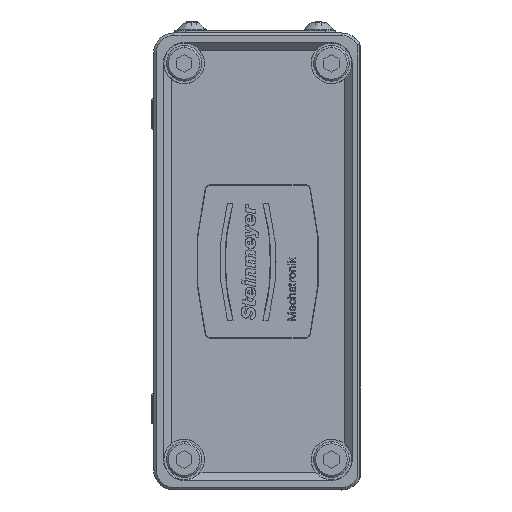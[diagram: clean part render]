
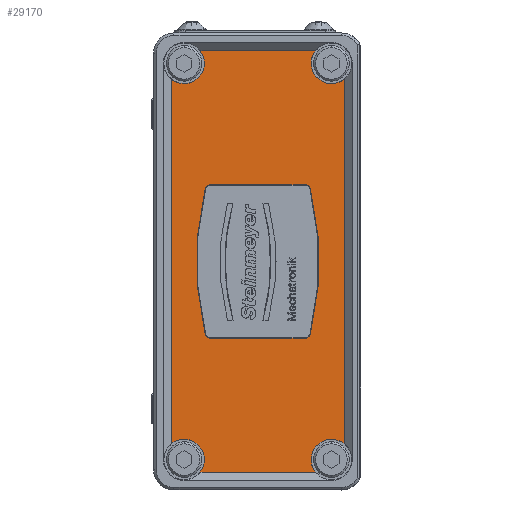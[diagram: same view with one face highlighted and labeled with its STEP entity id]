
A CAD part, left-side view. The second image highlights one B-rep face of the part: STEP entity #29170.
In plain terms, the highlighted planar face has unit normal (-1, 0, 0) as drawn and (0, 0, 1) by its records, which use the part's own axes.
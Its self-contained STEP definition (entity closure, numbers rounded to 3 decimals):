
#4797=CARTESIAN_POINT('',(-39.,6.,82.));
#4798=DIRECTION('',(0.,0.,1.));
#4799=DIRECTION('',(0.781,-0.625,0.));
#4800=AXIS2_PLACEMENT_3D('',#4797,#4798,#4799);
#4805=CARTESIAN_POINT('',(-39.,6.,82.));
#4806=DIRECTION('',(0.,0.,1.));
#4807=DIRECTION('',(0.,1.,0.));
#4808=AXIS2_PLACEMENT_3D('',#4805,#4806,#4807);
#4813=DIRECTION('',(0.,1.,0.));
#4814=VECTOR('',#4813,22.755);
#4815=CARTESIAN_POINT('',(-41.5,9.122,82.));
#4816=LINE('1429',#4815,#4814);
#4820=CARTESIAN_POINT('',(-39.,35.,82.));
#4821=DIRECTION('',(0.,0.,1.));
#4822=DIRECTION('',(-0.625,-0.781,0.));
#4823=AXIS2_PLACEMENT_3D('',#4820,#4821,#4822);
#4828=CARTESIAN_POINT('',(-39.,35.,82.));
#4829=DIRECTION('',(0.,0.,1.));
#4830=DIRECTION('',(0.,-1.,0.));
#4831=AXIS2_PLACEMENT_3D('',#4828,#4829,#4830);
#4836=DIRECTION('',(1.,0.,0.));
#4837=VECTOR('',#4836,71.755);
#4838=CARTESIAN_POINT('',(-35.878,37.5,82.));
#4839=LINE('1432',#4838,#4837);
#4843=CARTESIAN_POINT('',(39.,35.,82.));
#4844=DIRECTION('',(0.,0.,1.));
#4845=DIRECTION('',(-0.781,0.625,0.));
#4846=AXIS2_PLACEMENT_3D('',#4843,#4844,#4845);
#4851=CARTESIAN_POINT('',(39.,35.,82.));
#4852=DIRECTION('',(0.,0.,1.));
#4853=DIRECTION('',(0.,-1.,0.));
#4854=AXIS2_PLACEMENT_3D('',#4851,#4852,#4853);
#4859=DIRECTION('',(0.,-1.,0.));
#4860=VECTOR('',#4859,22.755);
#4861=CARTESIAN_POINT('',(41.5,31.878,82.));
#4862=LINE('1434',#4861,#4860);
#4866=CARTESIAN_POINT('',(39.,6.,82.));
#4867=DIRECTION('',(0.,0.,1.));
#4868=DIRECTION('',(0.625,0.781,0.));
#4869=AXIS2_PLACEMENT_3D('',#4866,#4867,#4868);
#4874=CARTESIAN_POINT('',(39.,6.,82.));
#4875=DIRECTION('',(0.,0.,1.));
#4876=DIRECTION('',(0.,1.,0.));
#4877=AXIS2_PLACEMENT_3D('',#4874,#4875,#4876);
#4882=DIRECTION('',(-1.,0.,0.));
#4883=VECTOR('',#4882,71.755);
#4884=CARTESIAN_POINT('',(35.878,3.5,82.));
#4885=LINE('1437',#4884,#4883);
#4889=CARTESIAN_POINT('',(14.,29.815,82.));
#4890=DIRECTION('',(0.,0.,1.));
#4891=DIRECTION('',(1.,0.,0.));
#4892=AXIS2_PLACEMENT_3D('',#4889,#4890,#4891);
#4897=CARTESIAN_POINT('',(0.,-27.5,82.));
#4898=DIRECTION('',(0.,0.,1.));
#4899=DIRECTION('',(0.237,0.971,0.));
#4900=AXIS2_PLACEMENT_3D('',#4897,#4898,#4899);
#4905=CARTESIAN_POINT('',(-14.,29.815,82.));
#4906=DIRECTION('',(0.,0.,1.));
#4907=DIRECTION('',(-0.237,0.971,0.));
#4908=AXIS2_PLACEMENT_3D('',#4905,#4906,#4907);
#4913=CARTESIAN_POINT('',(-14.,11.185,82.));
#4914=DIRECTION('',(0.,0.,1.));
#4915=DIRECTION('',(-1.,0.,0.));
#4916=AXIS2_PLACEMENT_3D('',#4913,#4914,#4915);
#4921=CARTESIAN_POINT('',(0.,68.5,82.));
#4922=DIRECTION('',(0.,0.,1.));
#4923=DIRECTION('',(-0.237,-0.971,0.));
#4924=AXIS2_PLACEMENT_3D('',#4921,#4922,#4923);
#4929=CARTESIAN_POINT('',(14.,11.185,82.));
#4930=DIRECTION('',(0.,0.,1.));
#4931=DIRECTION('',(0.237,-0.971,0.));
#4932=AXIS2_PLACEMENT_3D('',#4929,#4930,#4931);
#6085=DIRECTION('',(0.,-1.,0.));
#6086=VECTOR('',#6085,18.63);
#6087=CARTESIAN_POINT('',(15.1,29.815,82.));
#6088=LINE('1445',#6087,#6086);
#6120=DIRECTION('',(0.,1.,0.));
#6121=VECTOR('',#6120,18.63);
#6122=CARTESIAN_POINT('',(-15.1,11.185,82.));
#6123=LINE('1441',#6122,#6121);
#22548=CARTESIAN_POINT('',(39.,31.,82.));
#22549=CARTESIAN_POINT('',(41.5,31.878,82.));
#22550=VERTEX_POINT('',#22548);
#22551=VERTEX_POINT('',#22549);
#22557=CARTESIAN_POINT('',(-35.878,3.5,82.));
#22558=CARTESIAN_POINT('',(-39.,10.,82.));
#22559=VERTEX_POINT('',#22557);
#22560=VERTEX_POINT('',#22558);
#22561=CARTESIAN_POINT('',(-41.5,9.122,82.));
#22562=VERTEX_POINT('',#22561);
#22563=CARTESIAN_POINT('',(-41.5,31.878,82.));
#22564=VERTEX_POINT('',#22563);
#22565=CARTESIAN_POINT('',(-39.,31.,82.));
#22566=VERTEX_POINT('',#22565);
#22567=CARTESIAN_POINT('',(-35.878,37.5,82.));
#22568=VERTEX_POINT('',#22567);
#22569=CARTESIAN_POINT('',(35.878,37.5,82.));
#22570=VERTEX_POINT('',#22569);
#22571=CARTESIAN_POINT('',(41.5,9.122,82.));
#22572=VERTEX_POINT('',#22571);
#22573=CARTESIAN_POINT('',(39.,10.,82.));
#22574=VERTEX_POINT('',#22573);
#22575=CARTESIAN_POINT('',(35.878,3.5,82.));
#22576=VERTEX_POINT('',#22575);
#22577=CARTESIAN_POINT('',(15.1,29.815,82.));
#22578=CARTESIAN_POINT('',(14.261,30.884,82.));
#22579=VERTEX_POINT('',#22577);
#22580=VERTEX_POINT('',#22578);
#22581=CARTESIAN_POINT('',(-14.261,30.884,82.));
#22582=VERTEX_POINT('',#22581);
#22583=CARTESIAN_POINT('',(-15.1,29.815,82.));
#22584=VERTEX_POINT('',#22583);
#22585=CARTESIAN_POINT('',(-15.1,11.185,82.));
#22586=VERTEX_POINT('',#22585);
#22587=CARTESIAN_POINT('',(-14.261,10.116,82.));
#22588=VERTEX_POINT('',#22587);
#22589=CARTESIAN_POINT('',(14.261,10.116,82.));
#22590=VERTEX_POINT('',#22589);
#22591=CARTESIAN_POINT('',(15.1,11.185,82.));
#22592=VERTEX_POINT('',#22591);
#29122=CARTESIAN_POINT('',(45.,20.5,82.));
#29123=DIRECTION('',(0.,0.,1.));
#29124=DIRECTION('',(1.,0.,0.));
#29125=AXIS2_PLACEMENT_3D('',#29122,#29123,#29124);
#29126=PLANE('276',#29125);
#29128=ORIENTED_EDGE('1427',*,*,#29127,.T.);
#29130=ORIENTED_EDGE('1428',*,*,#29129,.T.);
#29132=ORIENTED_EDGE('1429',*,*,#29131,.T.);
#29134=ORIENTED_EDGE('1430',*,*,#29133,.T.);
#29136=ORIENTED_EDGE('1431',*,*,#29135,.T.);
#29138=ORIENTED_EDGE('1432',*,*,#29137,.T.);
#29140=ORIENTED_EDGE('1433',*,*,#29139,.T.);
#29141=ORIENTED_EDGE('1421',*,*,#29106,.T.);
#29143=ORIENTED_EDGE('1434',*,*,#29142,.T.);
#29145=ORIENTED_EDGE('1435',*,*,#29144,.T.);
#29147=ORIENTED_EDGE('1436',*,*,#29146,.T.);
#29149=ORIENTED_EDGE('1437',*,*,#29148,.T.);
#29150=EDGE_LOOP('276',(#29128,#29130,#29132,#29134,#29136,#29138,#29140,#29141,
#29143,#29145,#29147,#29149));
#29151=FACE_OUTER_BOUND('276',#29150,.F.);
#29153=ORIENTED_EDGE('1438',*,*,#29152,.T.);
#29155=ORIENTED_EDGE('1439',*,*,#29154,.T.);
#29157=ORIENTED_EDGE('1440',*,*,#29156,.T.);
#29159=ORIENTED_EDGE('1441',*,*,#29158,.F.);
#29161=ORIENTED_EDGE('1442',*,*,#29160,.T.);
#29163=ORIENTED_EDGE('1443',*,*,#29162,.T.);
#29165=ORIENTED_EDGE('1444',*,*,#29164,.T.);
#29167=ORIENTED_EDGE('1445',*,*,#29166,.F.);
#29168=EDGE_LOOP('276',(#29153,#29155,#29157,#29159,#29161,#29163,#29165,
#29167));
#29169=FACE_BOUND('276',#29168,.F.);
#4801=CIRCLE('1427',#4800,4.);
#4809=CIRCLE('1428',#4808,4.);
#4824=CIRCLE('1430',#4823,4.);
#4832=CIRCLE('1431',#4831,4.);
#4847=CIRCLE('1433',#4846,4.);
#4855=CIRCLE('1421',#4854,4.);
#4870=CIRCLE('1435',#4869,4.);
#4878=CIRCLE('1436',#4877,4.);
#4893=CIRCLE('1438',#4892,1.1);
#4901=CIRCLE('1439',#4900,60.1);
#4909=CIRCLE('1440',#4908,1.1);
#4917=CIRCLE('1442',#4916,1.1);
#4925=CIRCLE('1443',#4924,60.1);
#4933=CIRCLE('1444',#4932,1.1);
#29106=EDGE_CURVE('1421',#22550,#22551,#4855,.T.);
#29127=EDGE_CURVE('1427',#22559,#22560,#4801,.T.);
#29129=EDGE_CURVE('1428',#22560,#22562,#4809,.T.);
#29131=EDGE_CURVE('1429',#22562,#22564,#4816,.T.);
#29133=EDGE_CURVE('1430',#22564,#22566,#4824,.T.);
#29135=EDGE_CURVE('1431',#22566,#22568,#4832,.T.);
#29137=EDGE_CURVE('1432',#22568,#22570,#4839,.T.);
#29139=EDGE_CURVE('1433',#22570,#22550,#4847,.T.);
#29142=EDGE_CURVE('1434',#22551,#22572,#4862,.T.);
#29144=EDGE_CURVE('1435',#22572,#22574,#4870,.T.);
#29146=EDGE_CURVE('1436',#22574,#22576,#4878,.T.);
#29148=EDGE_CURVE('1437',#22576,#22559,#4885,.T.);
#29152=EDGE_CURVE('1438',#22579,#22580,#4893,.T.);
#29154=EDGE_CURVE('1439',#22580,#22582,#4901,.T.);
#29156=EDGE_CURVE('1440',#22582,#22584,#4909,.T.);
#29158=EDGE_CURVE('1441',#22586,#22584,#6123,.T.);
#29160=EDGE_CURVE('1442',#22586,#22588,#4917,.T.);
#29162=EDGE_CURVE('1443',#22588,#22590,#4925,.T.);
#29164=EDGE_CURVE('1444',#22590,#22592,#4933,.T.);
#29166=EDGE_CURVE('1445',#22579,#22592,#6088,.T.);
#29170=ADVANCED_FACE('276',(#29151,#29169),#29126,.T.);
